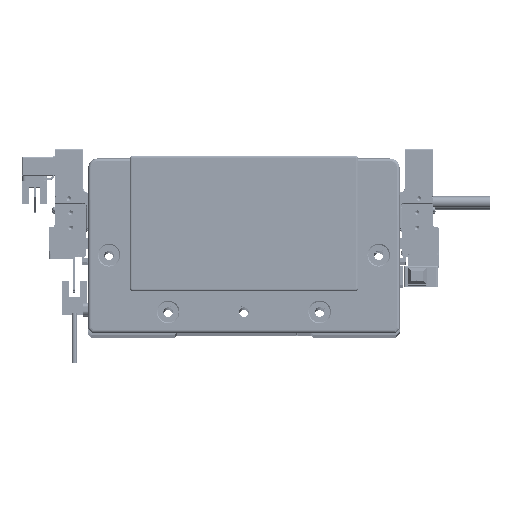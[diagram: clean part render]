
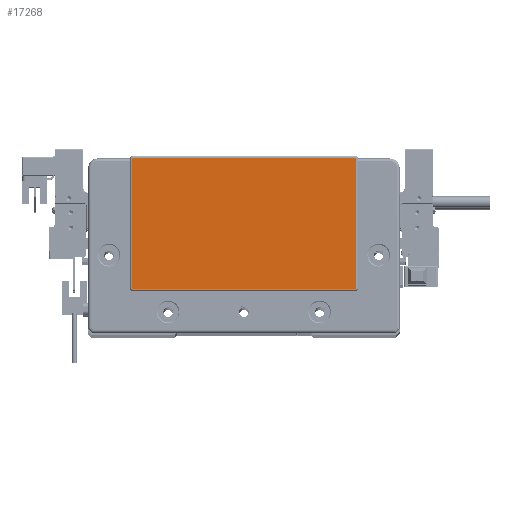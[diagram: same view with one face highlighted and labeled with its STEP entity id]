
A CAD part, top view. The second image highlights one B-rep face of the part: STEP entity #17268.
In plain terms, the highlighted planar face has unit normal (0, 0, 1) as drawn and (0, 0, -1) by its records, which use the part's own axes.
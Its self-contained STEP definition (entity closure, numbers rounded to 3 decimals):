
#1330 = CARTESIAN_POINT ( 'NONE',  ( 58.75, -23.3, -2. ) ) ;
#2598 = VECTOR ( 'NONE', #14438, 1000. ) ;
#4267 = VECTOR ( 'NONE', #5364, 1000. ) ;
#4527 = ORIENTED_EDGE ( 'NONE', *, *, #43783, .T. ) ;
#5120 = DIRECTION ( 'NONE',  ( 0., -1., 0. ) ) ;
#5364 = DIRECTION ( 'NONE',  ( -1., 0., 0. ) ) ;
#5778 = AXIS2_PLACEMENT_3D ( 'NONE', #31308, #86936, #60270 ) ;
#6624 = DIRECTION ( 'NONE',  ( -1., 0., 0. ) ) ;
#9049 = VERTEX_POINT ( 'NONE', #54169 ) ;
#12182 = CARTESIAN_POINT ( 'NONE',  ( 58.75, 45.8, -2. ) ) ;
#13264 = CARTESIAN_POINT ( 'NONE',  ( 59.25, -23.3, -2. ) ) ;
#14031 = VERTEX_POINT ( 'NONE', #89933 ) ;
#14438 = DIRECTION ( 'NONE',  ( 0., 1., 0. ) ) ;
#17268 = ADVANCED_FACE ( 'NONE', ( #78933 ), #56497, .T. ) ;
#17935 = VERTEX_POINT ( 'NONE', #13264 ) ;
#19029 = DIRECTION ( 'NONE',  ( 0., 0., -1. ) ) ;
#20088 = CARTESIAN_POINT ( 'NONE',  ( 59.25, -23.3, -2. ) ) ;
#21313 = CIRCLE ( 'NONE', #33274, 0.5 ) ;
#21429 = DIRECTION ( 'NONE',  ( -1., 0., 0. ) ) ;
#23434 = EDGE_CURVE ( 'NONE', #47595, #14031, #91146, .T. ) ;
#24448 = AXIS2_PLACEMENT_3D ( 'NONE', #81975, #46440, #6624 ) ;
#24830 = CIRCLE ( 'NONE', #32327, 0.5 ) ;
#25594 = ORIENTED_EDGE ( 'NONE', *, *, #23434, .T. ) ;
#25971 = LINE ( 'NONE', #83470, #4267 ) ;
#26036 = EDGE_CURVE ( 'NONE', #64045, #47595, #46161, .T. ) ;
#28836 = ORIENTED_EDGE ( 'NONE', *, *, #26036, .T. ) ;
#28959 = CARTESIAN_POINT ( 'NONE',  ( -59.25, 45.3, -2. ) ) ;
#31308 = CARTESIAN_POINT ( 'NONE',  ( -58.75, -23.3, -2. ) ) ;
#32327 = AXIS2_PLACEMENT_3D ( 'NONE', #69068, #19029, #47560 ) ;
#32761 = EDGE_CURVE ( 'NONE', #57069, #64045, #25971, .T. ) ;
#33274 = AXIS2_PLACEMENT_3D ( 'NONE', #1330, #50008, #42996 ) ;
#34017 = CARTESIAN_POINT ( 'NONE',  ( -58.75, -23.8, -2. ) ) ;
#34981 = VERTEX_POINT ( 'NONE', #12182 ) ;
#35439 = ORIENTED_EDGE ( 'NONE', *, *, #32761, .T. ) ;
#38018 = ORIENTED_EDGE ( 'NONE', *, *, #77353, .T. ) ;
#40360 = DIRECTION ( 'NONE',  ( 1., 0., 0. ) ) ;
#41165 = LINE ( 'NONE', #20088, #55796 ) ;
#42996 = DIRECTION ( 'NONE',  ( -1., 0., 0. ) ) ;
#43783 = EDGE_CURVE ( 'NONE', #9049, #17935, #41165, .T. ) ;
#46161 = CIRCLE ( 'NONE', #5778, 0.5 ) ;
#46193 = EDGE_CURVE ( 'NONE', #34981, #9049, #24830, .T. ) ;
#46440 = DIRECTION ( 'NONE',  ( 0., 0., -1. ) ) ;
#47560 = DIRECTION ( 'NONE',  ( -1., 0., 0. ) ) ;
#47595 = VERTEX_POINT ( 'NONE', #51724 ) ;
#49032 = CARTESIAN_POINT ( 'NONE',  ( 0., 0., -2. ) ) ;
#50008 = DIRECTION ( 'NONE',  ( 0., 0., -1. ) ) ;
#51355 = CIRCLE ( 'NONE', #24448, 0.5 ) ;
#51724 = CARTESIAN_POINT ( 'NONE',  ( -59.25, -23.3, -2. ) ) ;
#54169 = CARTESIAN_POINT ( 'NONE',  ( 59.25, 45.3, -2. ) ) ;
#55796 = VECTOR ( 'NONE', #5120, 1000. ) ;
#56216 = LINE ( 'NONE', #61384, #89749 ) ;
#56497 = PLANE ( 'NONE',  #85024 ) ;
#56625 = CARTESIAN_POINT ( 'NONE',  ( 58.75, -23.8, -2. ) ) ;
#57069 = VERTEX_POINT ( 'NONE', #56625 ) ;
#60183 = ORIENTED_EDGE ( 'NONE', *, *, #46193, .T. ) ;
#60270 = DIRECTION ( 'NONE',  ( -1., 0., 0. ) ) ;
#61384 = CARTESIAN_POINT ( 'NONE',  ( 58.75, 45.8, -2. ) ) ;
#64045 = VERTEX_POINT ( 'NONE', #34017 ) ;
#66798 = EDGE_LOOP ( 'NONE', ( #4527, #91993, #35439, #28836, #25594, #38018, #85528, #60183 ) ) ;
#69068 = CARTESIAN_POINT ( 'NONE',  ( 58.75, 45.3, -2. ) ) ;
#70667 = EDGE_CURVE ( 'NONE', #71095, #34981, #56216, .T. ) ;
#71095 = VERTEX_POINT ( 'NONE', #91074 ) ;
#77353 = EDGE_CURVE ( 'NONE', #14031, #71095, #51355, .T. ) ;
#78933 = FACE_OUTER_BOUND ( 'NONE', #66798, .T. ) ;
#81975 = CARTESIAN_POINT ( 'NONE',  ( -58.75, 45.3, -2. ) ) ;
#83470 = CARTESIAN_POINT ( 'NONE',  ( -58.75, -23.8, -2. ) ) ;
#85024 = AXIS2_PLACEMENT_3D ( 'NONE', #49032, #85027, #21429 ) ;
#85027 = DIRECTION ( 'NONE',  ( 0., 0., -1. ) ) ;
#85528 = ORIENTED_EDGE ( 'NONE', *, *, #70667, .T. ) ;
#86936 = DIRECTION ( 'NONE',  ( 0., 0., -1. ) ) ;
#89244 = EDGE_CURVE ( 'NONE', #17935, #57069, #21313, .T. ) ;
#89749 = VECTOR ( 'NONE', #40360, 1000. ) ;
#89933 = CARTESIAN_POINT ( 'NONE',  ( -59.25, 45.3, -2. ) ) ;
#91074 = CARTESIAN_POINT ( 'NONE',  ( -58.75, 45.8, -2. ) ) ;
#91146 = LINE ( 'NONE', #28959, #2598 ) ;
#91993 = ORIENTED_EDGE ( 'NONE', *, *, #89244, .T. ) ;
